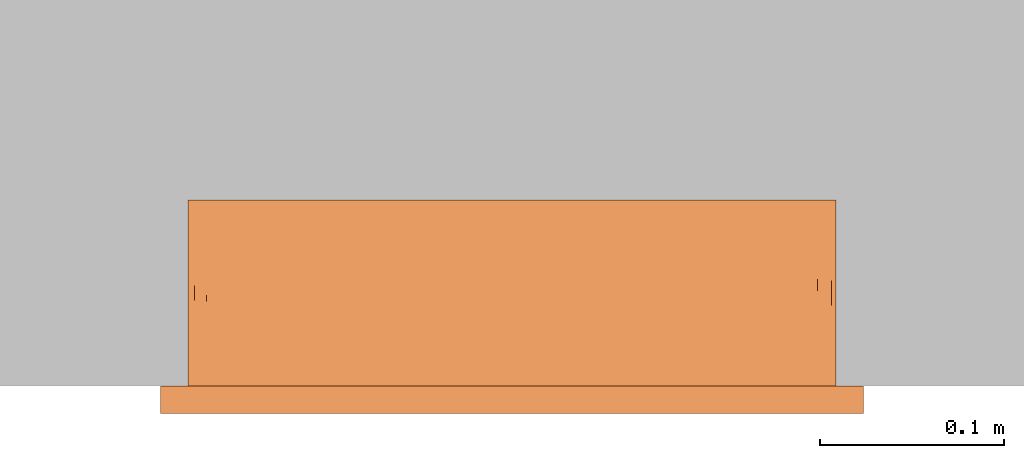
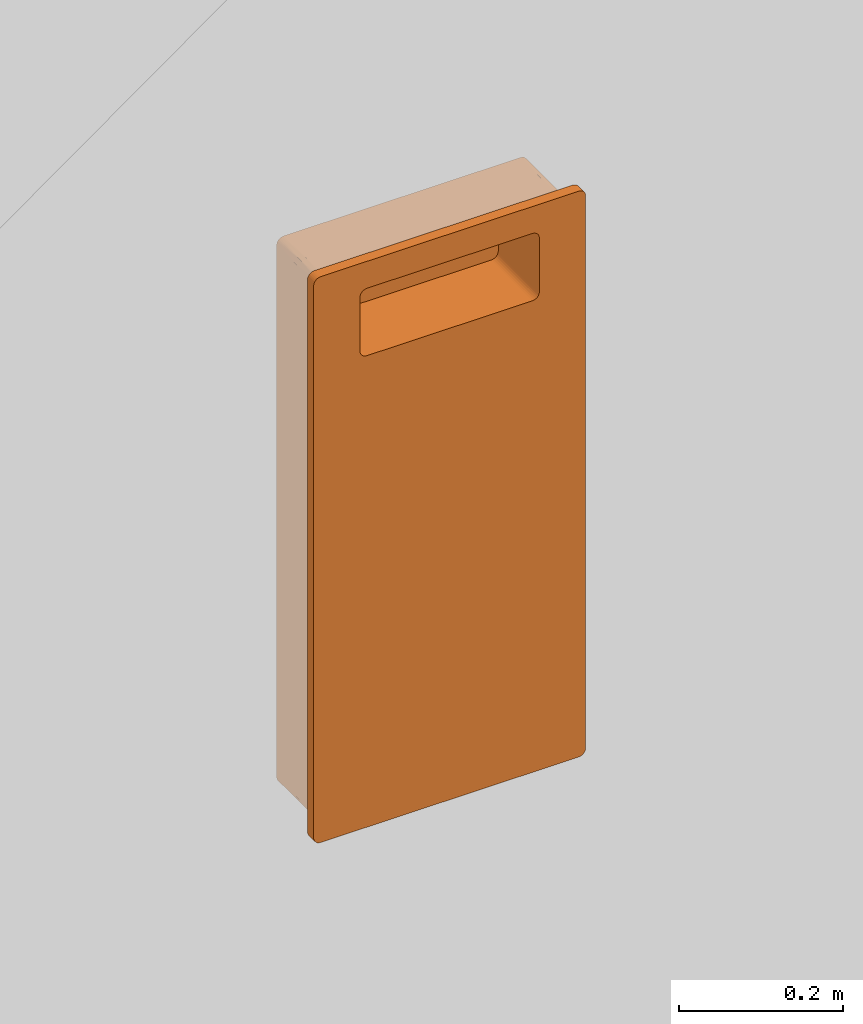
# One storey, part 2 of 2: 1 proxy.
"""IFC2X3 building model written with IfcOpenShell, lengths in millimetres."""

from ifc_helpers import new_model, entity, si_unit, converted_unit, derived_unit, direction, frame, origin, place, context, subcontext, project, spatial, faceted_brep, source, transform, mapped, material, element, save


model = new_model("IFC2X3")

# Units and contexts
model_context = context("Model", 3, precision=0.01, world=origin(), true_north=direction((6.12303176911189e-17, 1.0)))
context_of_model = context(None, 3, precision=0.01, world=origin(), true_north=direction((6.12303176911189e-17, 1.0)))
body_context = subcontext(model_context, "Body", "Model", "MODEL_VIEW")
ifc_project = project(units=[si_unit("LENGTHUNIT", "METRE", prefix="MILLI"), si_unit("AREAUNIT", "SQUARE_METRE"), si_unit("VOLUMEUNIT", "CUBIC_METRE"), converted_unit("PLANEANGLEUNIT", "DEGREE", entity("IfcRatioMeasure", 0.0174532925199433), si_unit("PLANEANGLEUNIT", "RADIAN"), dimensions=[0, 0, 0, 0, 0, 0, 0]), si_unit("MASSUNIT", "GRAM", prefix="KILO"), si_unit("TIMEUNIT", "SECOND"), si_unit("FREQUENCYUNIT", "HERTZ"), si_unit("THERMODYNAMICTEMPERATUREUNIT", "DEGREE_CELSIUS"), derived_unit("THERMALTRANSMITTANCEUNIT", [(si_unit("MASSUNIT", "GRAM", prefix="KILO"), 1), (si_unit("THERMODYNAMICTEMPERATUREUNIT", "KELVIN"), -1), (si_unit("TIMEUNIT", "SECOND"), -3)]), derived_unit("VOLUMETRICFLOWRATEUNIT", [(si_unit("LENGTHUNIT", "METRE"), 3), (si_unit("TIMEUNIT", "SECOND"), -1)]), si_unit("ELECTRICCURRENTUNIT", "AMPERE"), si_unit("ELECTRICVOLTAGEUNIT", "VOLT"), si_unit("POWERUNIT", "WATT"), si_unit("FORCEUNIT", "NEWTON", prefix="KILO"), si_unit("ILLUMINANCEUNIT", "LUX"), si_unit("LUMINOUSFLUXUNIT", "LUMEN"), si_unit("LUMINOUSINTENSITYUNIT", "CANDELA"), si_unit("PRESSUREUNIT", "PASCAL")], contexts=[model_context, context_of_model])

# Site, building, storey
site_placement = place(None, origin())
site = spatial("IfcSite", under=ifc_project, at=site_placement, Name="Default", CompositionType="ELEMENT")
building_placement = place(site_placement, origin())
building = spatial("IfcBuilding", under=site, at=building_placement, CompositionType="ELEMENT")
storey_placement = place(building_placement, origin())
storey = spatial("IfcBuildingStorey", under=building, at=storey_placement, Name="Level 0", CompositionType="ELEMENT", Elevation=0.0)

# Proxy
ifc_material = material(Name="Stainless Steel AISI 304")
shared_shape = source(origin(), body_context, "Body", "Brep", [
    faceted_brep([(173.071067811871, 402.071067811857, 0.0), (171.0, 403.660254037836, 0.0), (168.588190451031, 404.659258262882, 0.0), (166.0, 405.0, 0.0), (174.66025403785, 400.0, 0.0), (175.659258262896, 397.588190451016, 0.0), (176.0, 395.0, 0.0), (125.659258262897, 372.588190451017, 0.0), (124.660254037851, 375.0, 0.0), (123.071067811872, 377.071067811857, 0.0), (121.0, 378.660254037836, 0.0), (118.588190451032, 379.659258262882, 0.0), (116.0, 380.0, 0.0), (-116.0, 380.0, 0.0), (-166.0, 405.0, 0.0), (-118.588190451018, 379.659258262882, 0.0), (-121.0, 378.660254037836, 0.0), (-123.071067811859, 377.071067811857, 0.0), (-124.660254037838, 375.0, 0.0), (-125.659258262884, 372.588190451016, 0.0), (-176.0, 395.0, 0.0), (-175.659258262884, 397.588190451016, 0.0), (-174.660254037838, 400.0, 0.0), (-173.071067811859, 402.071067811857, 0.0), (-168.588190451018, 404.659258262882, 0.0), (-171.0, 403.660254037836, 0.0), (-126.0, 370.0, 0.0), (-126.0, 290.0, 0.0), (-125.659258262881, 287.411809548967, 0.0), (-176.0, -395.0, 0.0), (-124.660254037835, 285.0, 0.0), (-123.071067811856, 282.928932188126, 0.0), (-121.0, 281.339745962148, 0.0), (-118.588190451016, 280.340741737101, 0.0), (-116.0, 280.0, 0.0), (116.0, 280.0, 0.0), (176.0, -395.0, 0.0), (166.0, -405.0, 0.0), (-166.0, -405.0, 0.0), (-175.659258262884, -397.588190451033, 0.0), (-174.660254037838, -400.0, 0.0), (-173.071067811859, -402.071067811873, 0.0), (-168.588190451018, -404.659258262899, 0.0), (-171.0, -403.660254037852, 0.0), (175.659258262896, -397.588190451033, 0.0), (174.66025403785, -400.0, 0.0), (173.071067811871, -402.071067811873, 0.0), (168.588190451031, -404.659258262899, 0.0), (171.0, -403.660254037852, 0.0), (125.659258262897, 287.411809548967, 0.0), (124.660254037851, 285.0, 0.0), (118.588190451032, 280.340741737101, 0.0), (121.0, 281.339745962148, 0.0), (123.071067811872, 282.928932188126, 0.0), (126.0, 370.0, 0.0), (126.0, 290.0, 0.0), (-173.071067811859, 402.071067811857, -101.0), (-171.0, 403.660254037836, -101.0), (-168.588190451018, 404.659258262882, -101.0), (-166.0, 405.0, -101.0), (166.0, 405.0, -101.0), (168.588190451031, 404.659258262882, -101.0), (171.0, 403.660254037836, -101.0), (173.071067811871, 402.071067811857, -101.0), (174.66025403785, 400.0, -101.0), (175.659258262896, 397.588190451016, -101.0), (176.0, 395.0, -101.0), (176.0, -395.0, -101.0), (175.659258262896, -397.588190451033, -101.0), (174.66025403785, -400.0, -101.0), (173.071067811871, -402.071067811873, -101.0), (171.0, -403.660254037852, -101.0), (168.588190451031, -404.659258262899, -101.0), (166.0, -405.0, -101.0), (-166.0, -405.0, -101.0), (-168.588190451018, -404.659258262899, -101.0), (-171.0, -403.660254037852, -101.0), (-173.071067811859, -402.071067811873, -101.0), (-174.660254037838, -400.0, -101.0), (-175.659258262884, -397.588190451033, -101.0), (-176.0, -395.0, -101.0), (-176.0, 395.0, -101.0), (-175.659258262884, 397.588190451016, -101.0), (-174.660254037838, 400.0, -101.0), (166.0, 405.0, -55.2086909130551), (-166.0, 405.0, -45.7913008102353), (-176.0, 395.0, -55.2086970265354), (-176.0, -395.0, -55.2087006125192), (-166.0, -405.0, -55.2086983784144), (166.0, -405.0, -45.7913009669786), (176.0, -395.0, -55.2086929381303), (176.0, 395.0, -45.7913018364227), (-172.52279763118, 402.579783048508, -50.4999973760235), (-173.579783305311, -401.522797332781, -50.4999985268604), (172.52279728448, -402.579783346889, -50.4999991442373), (173.579783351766, 401.522797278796, -50.4999994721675), (-124.660254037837, 375.0, -85.0), (-125.659258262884, 372.588190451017, -85.0), (-126.0, 370.0, -85.0), (-126.0, 290.0, -85.0), (-125.659258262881, 287.411809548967, -85.0), (-124.660254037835, 285.0, -85.0), (-123.071067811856, 282.928932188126, -85.0), (-121.0, 281.339745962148, -85.0), (-118.588190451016, 280.340741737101, -85.0), (-116.0, 280.0, -85.0), (116.0, 280.0, -85.0), (118.588190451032, 280.340741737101, -85.0), (121.0, 281.339745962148, -85.0), (123.071067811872, 282.928932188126, -85.0), (124.660254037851, 285.0, -85.0), (125.659258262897, 287.411809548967, -85.0), (126.0, 290.0, -85.0), (126.0, 370.0, -85.0), (125.659258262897, 372.588190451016, -85.0), (124.660254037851, 375.0, -85.0), (123.071067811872, 377.071067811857, -85.0), (121.0, 378.660254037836, -85.0), (118.588190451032, 379.659258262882, -85.0), (116.0, 380.0, -85.0), (-116.0, 380.0, -85.0), (-118.588190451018, 379.659258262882, -85.0), (-121.0, 378.660254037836, -85.0), (-123.071067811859, 377.071067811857, -85.0)], [[[0, 1, 2]], [[0, 2, 3]], [[0, 3, 4]], [[4, 3, 5]], [[5, 3, 6]], [[3, 7, 6]], [[7, 3, 8]], [[9, 8, 3]], [[10, 9, 3]], [[11, 10, 3]], [[12, 11, 3]], [[3, 13, 12]], [[13, 3, 14]], [[15, 13, 14]], [[16, 15, 14]], [[16, 14, 17]], [[18, 17, 14]], [[18, 14, 19]], [[14, 20, 19]], [[20, 14, 21]], [[22, 21, 14]], [[14, 23, 22]], [[23, 14, 24]], [[23, 24, 25]], [[26, 19, 20]], [[26, 20, 27]], [[27, 20, 28]], [[20, 29, 28]], [[30, 28, 29]], [[30, 29, 31]], [[32, 31, 29]], [[33, 32, 29]], [[34, 33, 29]], [[29, 35, 34]], [[29, 36, 35]], [[37, 36, 29]], [[38, 37, 29]], [[39, 38, 29]], [[38, 39, 40]], [[38, 40, 41]], [[42, 38, 41]], [[41, 43, 42]], [[37, 44, 36]], [[44, 37, 45]], [[46, 45, 37]], [[37, 47, 46]], [[48, 46, 47]], [[49, 36, 6]], [[49, 50, 36]], [[51, 35, 36]], [[52, 51, 36]], [[53, 52, 36]], [[50, 53, 36]], [[7, 54, 6]], [[6, 54, 55]], [[6, 55, 49]], [[56, 57, 58, 59, 60, 61, 62, 63, 64, 65, 66, 67, 68, 69, 70, 71, 72, 73, 74, 75, 76, 77, 78, 79, 80, 81, 82, 83]], [[14, 3, 84, 60, 59, 85]], [[29, 20, 86, 81, 80, 87]], [[38, 88, 74, 73, 89, 37]], [[6, 36, 90, 67, 66, 91]], [[57, 92, 58]], [[92, 56, 83]], [[85, 59, 58]], [[24, 14, 85]], [[56, 92, 57]], [[92, 85, 58]], [[23, 25, 92]], [[92, 25, 24]], [[24, 85, 92]], [[22, 92, 86]], [[81, 86, 82]], [[21, 86, 20]], [[92, 83, 86]], [[92, 22, 23]], [[86, 21, 22]], [[83, 82, 86]], [[39, 29, 87]], [[79, 87, 80]], [[88, 93, 76]], [[78, 93, 79]], [[77, 93, 78]], [[93, 77, 76]], [[87, 93, 39]], [[74, 88, 75]], [[38, 42, 88]], [[75, 88, 76]], [[88, 42, 43]], [[93, 87, 79]], [[43, 93, 88]], [[43, 41, 93]], [[40, 93, 41]], [[39, 93, 40]], [[94, 89, 72]], [[90, 94, 69]], [[90, 44, 45]], [[72, 89, 73]], [[47, 37, 89]], [[94, 71, 70]], [[67, 90, 68]], [[36, 44, 90]], [[72, 71, 94]], [[47, 89, 94]], [[68, 90, 69]], [[94, 46, 48]], [[94, 90, 45]], [[94, 45, 46]], [[47, 94, 48]], [[94, 70, 69]], [[95, 91, 65]], [[84, 95, 62]], [[95, 64, 63]], [[65, 91, 66]], [[5, 6, 91]], [[84, 2, 1]], [[60, 84, 61]], [[3, 2, 84]], [[65, 64, 95]], [[5, 91, 95]], [[61, 84, 62]], [[95, 0, 4]], [[95, 84, 1]], [[95, 1, 0]], [[5, 95, 4]], [[95, 63, 62]], [[96, 97, 98, 99, 100, 101, 102, 103, 104, 105, 106, 107, 108, 109, 110, 111, 112, 113, 114, 115, 116, 117, 118, 119, 120, 121, 122, 123]], [[119, 12, 13, 120]], [[98, 26, 27, 99]], [[105, 34, 35, 106]], [[112, 55, 54, 113]], [[15, 121, 120, 13]], [[122, 16, 17, 123]], [[15, 16, 122, 121]], [[97, 96, 18, 19]], [[98, 97, 19, 26]], [[96, 123, 17, 18]], [[28, 100, 99, 27]], [[28, 30, 101, 100]], [[101, 30, 31, 102]], [[104, 103, 32, 33]], [[105, 104, 33, 34]], [[103, 102, 31, 32]], [[53, 109, 108, 52]], [[107, 106, 35, 51]], [[51, 52, 108, 107]], [[111, 110, 50, 49]], [[112, 111, 49, 55]], [[110, 109, 53, 50]], [[114, 113, 54, 7]], [[115, 114, 7, 8]], [[9, 116, 115, 8]], [[118, 117, 10, 11]], [[119, 118, 11, 12]], [[10, 117, 116, 9]]]),
    faceted_brep([(188.071067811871, 417.071067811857, 15.0), (186.0, 418.660254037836, 15.0), (183.588190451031, 419.659258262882, 15.0), (181.0, 420.0, 15.0), (189.66025403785, 415.0, 15.0), (190.659258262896, 412.588190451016, 15.0), (191.0, 410.0, 15.0), (124.660254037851, 375.0, 15.0), (123.071067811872, 377.071067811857, 15.0), (121.0, 378.660254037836, 15.0), (118.588190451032, 379.659258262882, 15.0), (116.0, 380.0, 15.0), (-116.0, 380.0, 15.0), (-181.0, 420.0, 15.0), (-118.588190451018, 379.659258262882, 15.0), (-121.0, 378.660254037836, 15.0), (-123.071067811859, 377.071067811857, 15.0), (-124.660254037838, 375.0, 15.0), (-191.0, 410.0, 15.0), (-190.659258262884, 412.588190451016, 15.0), (-189.660254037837, 415.0, 15.0), (-188.071067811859, 417.071067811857, 15.0), (-183.588190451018, 419.659258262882, 15.0), (-186.0, 418.660254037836, 15.0), (-125.659258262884, 372.588190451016, 15.0), (-126.0, 370.0, 15.0), (-126.0, 290.0, 15.0), (-125.659258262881, 287.411809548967, 15.0), (-124.660254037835, 285.0, 15.0), (-191.0, -410.0, 15.0), (-123.071067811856, 282.928932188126, 15.0), (-121.0, 281.339745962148, 15.0), (-118.588190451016, 280.340741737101, 15.0), (-116.0, 280.0, 15.0), (116.0, 280.0, 15.0), (191.0, -410.0, 15.0), (181.0, -420.0, 15.0), (-181.0, -420.0, 15.0), (-190.65925826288, -412.588190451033, 15.0), (-189.660254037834, -415.0, 15.0), (-188.071067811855, -417.071067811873, 15.0), (-183.588190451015, -419.659258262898, 15.0), (-186.0, -418.660254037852, 15.0), (190.659258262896, -412.588190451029, 15.0), (189.66025403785, -415.0, 15.0), (188.071067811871, -417.071067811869, 15.0), (183.588190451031, -419.659258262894, 15.0), (186.0, -418.660254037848, 15.0), (124.660254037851, 285.0, 15.0), (118.588190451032, 280.340741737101, 15.0), (121.0, 281.339745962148, 15.0), (123.071067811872, 282.928932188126, 15.0), (125.659258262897, 372.588190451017, 15.0), (126.0, 370.0, 15.0), (126.0, 290.0, 15.0), (125.659258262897, 287.411809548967, 15.0), (-188.071067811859, 417.071067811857, 0.0), (-186.0, 418.660254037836, 0.0), (-183.588190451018, 419.659258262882, 0.0), (-181.0, 420.0, 0.0), (-189.660254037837, 415.0, 0.0), (-190.659258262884, 412.588190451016, 0.0), (-191.0, 410.0, 0.0), (-124.660254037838, 375.0, 0.0), (-123.071067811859, 377.071067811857, 0.0), (-121.0, 378.660254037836, 0.0), (-118.588190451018, 379.659258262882, 0.0), (-116.0, 380.0, 0.0), (116.0, 380.0, 0.0), (181.0, 420.0, 0.0), (118.588190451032, 379.659258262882, 0.0), (121.0, 378.660254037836, 0.0), (123.071067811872, 377.071067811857, 0.0), (124.660254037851, 375.0, 0.0), (191.0, 410.0, 0.0), (190.659258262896, 412.588190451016, 0.0), (189.66025403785, 415.0, 0.0), (188.071067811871, 417.071067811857, 0.0), (183.588190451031, 419.659258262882, 0.0), (186.0, 418.660254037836, 0.0), (125.659258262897, 372.588190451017, 0.0), (126.0, 370.0, 0.0), (126.0, 290.0, 0.0), (125.659258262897, 287.411809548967, 0.0), (124.660254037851, 285.0, 0.0), (191.0, -410.0, 0.0), (123.071067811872, 282.928932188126, 0.0), (121.0, 281.339745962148, 0.0), (118.588190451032, 280.340741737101, 0.0), (116.0, 280.0, 0.0), (-116.0, 280.0, 0.0), (-191.0, -410.0, 0.0), (-181.0, -420.0, 0.0), (181.0, -420.0, 0.0), (190.659258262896, -412.588190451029, 0.0), (189.66025403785, -415.0, 0.0), (188.071067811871, -417.071067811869, 0.0), (183.588190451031, -419.659258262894, 0.0), (186.0, -418.660254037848, 0.0), (-190.65925826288, -412.588190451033, 0.0), (-189.660254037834, -415.0, 0.0), (-188.071067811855, -417.071067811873, 0.0), (-183.588190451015, -419.659258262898, 0.0), (-186.0, -418.660254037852, 0.0), (-124.660254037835, 285.0, 0.0), (-118.588190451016, 280.340741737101, 0.0), (-121.0, 281.339745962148, 0.0), (-123.071067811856, 282.928932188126, 0.0), (-125.659258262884, 372.588190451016, 0.0), (-126.0, 370.0, 0.0), (-126.0, 290.0, 0.0), (-125.659258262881, 287.411809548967, 0.0)], [[[0, 1, 2]], [[0, 2, 3]], [[0, 3, 4]], [[4, 3, 5]], [[5, 3, 6]], [[3, 7, 6]], [[8, 7, 3]], [[9, 8, 3]], [[10, 9, 3]], [[11, 10, 3]], [[3, 12, 11]], [[12, 3, 13]], [[14, 12, 13]], [[15, 14, 13]], [[15, 13, 16]], [[17, 16, 13]], [[13, 18, 17]], [[18, 13, 19]], [[20, 19, 13]], [[13, 21, 20]], [[21, 13, 22]], [[21, 22, 23]], [[17, 18, 24]], [[25, 24, 18]], [[25, 18, 26]], [[26, 18, 27]], [[27, 18, 28]], [[29, 28, 18]], [[28, 29, 30]], [[31, 30, 29]], [[32, 31, 29]], [[33, 32, 29]], [[29, 34, 33]], [[29, 35, 34]], [[36, 35, 29]], [[37, 36, 29]], [[38, 37, 29]], [[37, 38, 39]], [[37, 39, 40]], [[41, 37, 40]], [[40, 42, 41]], [[36, 43, 35]], [[43, 36, 44]], [[45, 44, 36]], [[36, 46, 45]], [[47, 45, 46]], [[48, 35, 6]], [[49, 34, 35]], [[50, 49, 35]], [[51, 50, 35]], [[48, 51, 35]], [[52, 6, 7]], [[52, 53, 6]], [[6, 53, 54]], [[6, 54, 55]], [[48, 6, 55]], [[56, 57, 58]], [[56, 58, 59]], [[56, 59, 60]], [[60, 59, 61]], [[61, 59, 62]], [[59, 63, 62]], [[64, 63, 59]], [[65, 64, 59]], [[66, 65, 59]], [[67, 66, 59]], [[59, 68, 67]], [[68, 59, 69]], [[70, 68, 69]], [[71, 70, 69]], [[71, 69, 72]], [[73, 72, 69]], [[69, 74, 73]], [[74, 69, 75]], [[76, 75, 69]], [[69, 77, 76]], [[77, 69, 78]], [[77, 78, 79]], [[73, 74, 80]], [[81, 80, 74]], [[81, 74, 82]], [[82, 74, 83]], [[83, 74, 84]], [[85, 84, 74]], [[84, 85, 86]], [[87, 86, 85]], [[88, 87, 85]], [[89, 88, 85]], [[85, 90, 89]], [[85, 91, 90]], [[92, 91, 85]], [[93, 92, 85]], [[94, 93, 85]], [[93, 94, 95]], [[93, 95, 96]], [[97, 93, 96]], [[96, 98, 97]], [[92, 99, 91]], [[99, 92, 100]], [[101, 100, 92]], [[92, 102, 101]], [[103, 101, 102]], [[104, 91, 62]], [[105, 90, 91]], [[106, 105, 91]], [[107, 106, 91]], [[104, 107, 91]], [[108, 62, 63]], [[108, 109, 62]], [[62, 109, 110]], [[62, 110, 111]], [[104, 62, 111]], [[13, 3, 69, 59]], [[29, 18, 62, 91]], [[36, 37, 92, 93]], [[6, 35, 85, 74]], [[22, 13, 59, 58]], [[23, 22, 58, 57]], [[21, 23, 57, 56]], [[20, 21, 56, 60]], [[19, 20, 60, 61]], [[18, 19, 61, 62]], [[38, 29, 91, 99]], [[39, 38, 99, 100]], [[40, 39, 100, 101]], [[42, 40, 101, 103]], [[41, 42, 103, 102]], [[37, 41, 102, 92]], [[46, 36, 93, 97]], [[47, 46, 97, 98]], [[45, 47, 98, 96]], [[44, 45, 96, 95]], [[43, 44, 95, 94]], [[35, 43, 94, 85]], [[5, 6, 74, 75]], [[4, 5, 75, 76]], [[0, 4, 76, 77]], [[1, 0, 77, 79]], [[2, 1, 79, 78]], [[3, 2, 78, 69]], [[67, 68, 11, 12]], [[110, 109, 25, 26]], [[90, 33, 34, 89]], [[81, 82, 54, 53]], [[15, 65, 66, 14]], [[14, 66, 67, 12]], [[65, 15, 16, 64]], [[25, 109, 108, 24]], [[24, 108, 63, 17]], [[16, 17, 63, 64]], [[28, 104, 111, 27]], [[27, 111, 110, 26]], [[104, 28, 30, 107]], [[33, 90, 105, 32]], [[32, 105, 106, 31]], [[30, 31, 106, 107]], [[50, 87, 88, 49]], [[49, 88, 89, 34]], [[87, 50, 51, 86]], [[54, 82, 83, 55]], [[55, 83, 84, 48]], [[51, 48, 84, 86]], [[80, 81, 53, 52]], [[73, 80, 52, 7]], [[73, 7, 8, 72]], [[70, 71, 9, 10]], [[68, 70, 10, 11]], [[8, 9, 71, 72]]]),
])
proxy_placement = place(storey_placement, frame((-4134.05975115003, -159.822778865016, 1616.26836055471), z_axis=(0.0, -1.0, 0.0), x_axis=(1.0, 0.0, 0.0)))
element("IfcBuildingElementProxy", 1, at=proxy_placement, inside=storey, material=ifc_material, Name="Duten_WsteBins_P740:Waste Bin", ObjectType="Waste Bin", CompositionType="ELEMENT", context=body_context, shape_type="MappedRepresentation", body=[
    mapped(shared_shape, transform((0.0, 0.0, 0.0), scale=1.0)),
])

save(model, "model.ifc")
